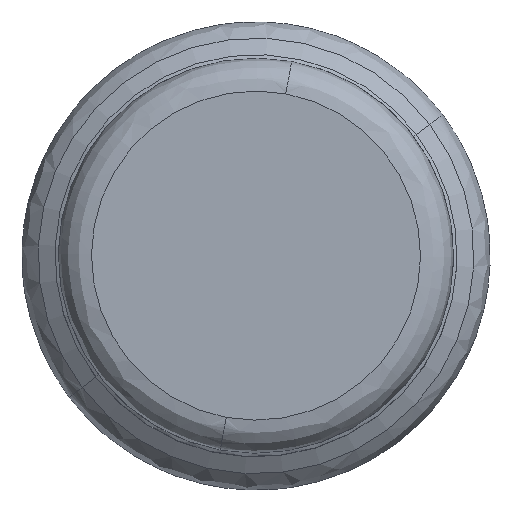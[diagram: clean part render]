
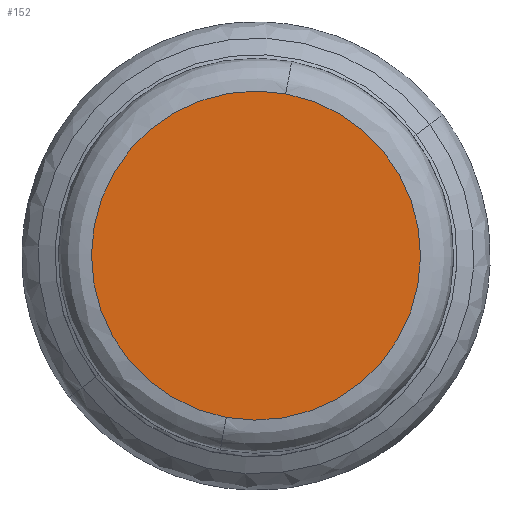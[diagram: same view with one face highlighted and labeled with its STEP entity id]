
A CAD part, top view. The second image highlights one B-rep face of the part: STEP entity #152.
In plain terms, the highlighted free-form (B-spline) face has degree [1, 1] with [2, 2] control points.
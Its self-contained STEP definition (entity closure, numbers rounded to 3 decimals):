
#152=ADVANCED_FACE('',(#365),#366,.T.);
#160=VERTEX_POINT('',#374);
#164=VERTEX_POINT('',#378);
#166=EDGE_CURVE('',#160,#164,#380,.T.);
#186=EDGE_CURVE('',#164,#160,#400,.T.);
#365=FACE_OUTER_BOUND('',#993,.T.);
#366=B_SPLINE_SURFACE_WITH_KNOTS('',1,1,((#994,#995),(#996,#997)),.UNSPECIFIED.,.F.,.F.,.F.,(2,2),(2,2),(0.138,0.862),(0.138,0.862),.UNSPECIFIED.);
#374=CARTESIAN_POINT('',(3.163,17.186,5.99));
#378=CARTESIAN_POINT('',(-3.163,-17.186,5.99));
#380=CIRCLE('',#1020,17.475);
#400=CIRCLE('',#1055,17.475);
#993=EDGE_LOOP('',(#1321,#1322));
#994=CARTESIAN_POINT('',(-22.124,11.167,5.99));
#995=CARTESIAN_POINT('',(11.166,22.124,5.99));
#996=CARTESIAN_POINT('',(-11.166,-22.124,5.99));
#997=CARTESIAN_POINT('',(22.124,-11.167,5.99));
#1020=AXIS2_PLACEMENT_3D('',#1326,#1327,#1328);
#1055=AXIS2_PLACEMENT_3D('',#1340,#1341,#1342);
#1321=ORIENTED_EDGE('',*,*,#186,.F.);
#1322=ORIENTED_EDGE('',*,*,#166,.F.);
#1326=CARTESIAN_POINT('',(-0.002,0.,5.99));
#1327=DIRECTION('',(0.,0.,-1.0));
#1328=DIRECTION('',(0.181,0.983,0.));
#1340=CARTESIAN_POINT('',(0.002,0.,5.99));
#1341=DIRECTION('',(0.,0.,-1.0));
#1342=DIRECTION('',(-0.181,-0.983,0.));
